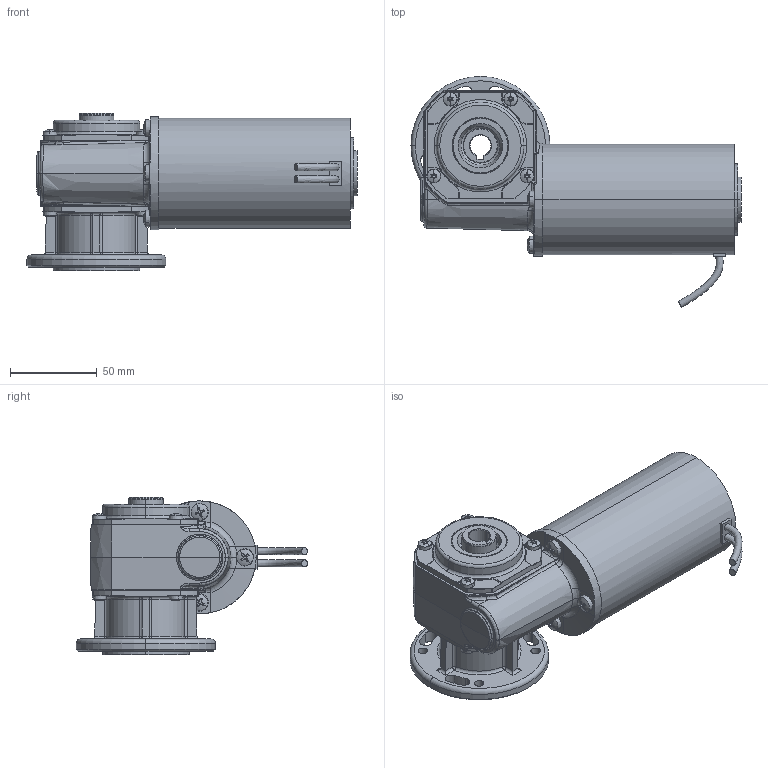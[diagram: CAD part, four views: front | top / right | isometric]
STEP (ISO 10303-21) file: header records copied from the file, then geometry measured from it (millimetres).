
FILE_DESCRIPTION(('STEP AP214'),'1');
FILE_NAME('Z:/TurboCAD/Motor-Getriebe-Kombinationen/PGK/tmp0.STEP','2015-04-01T14:00:57',(' '),(' '),'Spatial InterOp 3D',' ',' ');
FILE_SCHEMA(('automotive_design'));
Length unit declared in the file: millimetre
Products named in the file (899): 1; 2; 3; 5; 4; NONE
Bounding box: 190 x 133.15 x 90.5 mm (x, y, z)
Volume: 357791.4 mm3; surface area: 91071.4 mm2
Topology: 1 solids, 919 shells, 971 faces, 4511 edges, 4457 vertices
Faces by surface type: plane 366, cylinder 297, cone 137, torus 81, bspline 52, sphere 38
Entity records: 83543 total; most frequent: CARTESIAN_POINT 18044, DIRECTION 9406, ORIENTED_EDGE 4615, EDGE_CURVE 4499, VERTEX_POINT 4457, AXIS2_PLACEMENT_3D 3687, LINE 2032, VECTOR 2032
